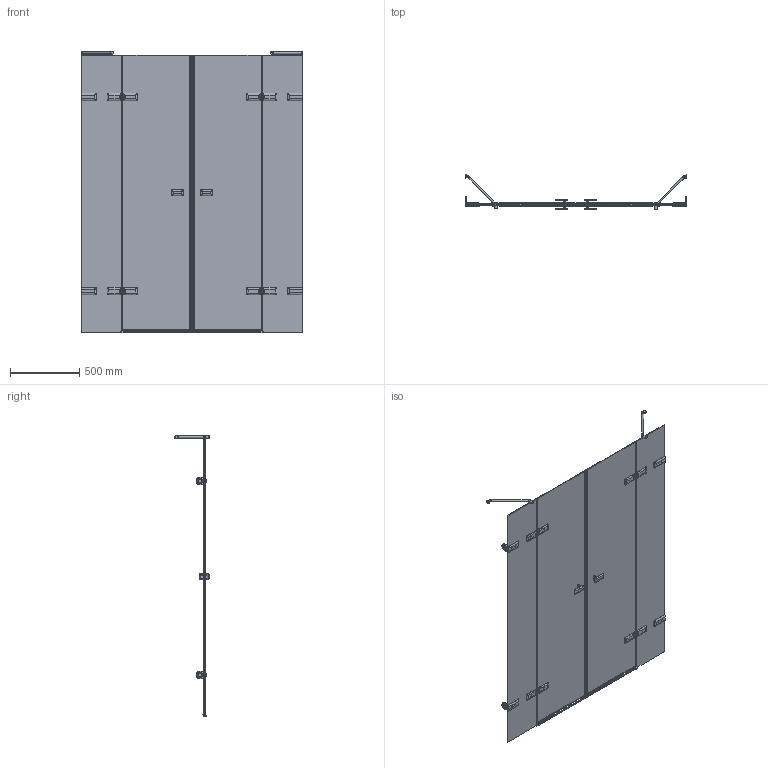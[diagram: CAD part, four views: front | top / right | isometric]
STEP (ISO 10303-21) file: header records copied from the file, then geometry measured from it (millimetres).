
FILE_DESCRIPTION(/* description */ (''),/* implementation_level */ '2;1');
FILE_NAME(/* name */ 'D:\!\! 1 Сначала\77\TREND DOOR GK-864\TREND DOOR GK-864-3D.stp',/* time_stamp */ '2021-01-20T18:19:22+03:00',/* author */ ('User'),/* organization */ (''),/* preprocessor_version */ 'ST-DEVELOPER v15.2',/* originating_system */ 'Autodesk Inventor 2014',/* authorisation */ '');
FILE_SCHEMA (('AUTOMOTIVE_DESIGN { 1 0 10303 214 3 1 1 }'));
Products named in the file (1): TREND DOOR GK-864-3D
Bounding box: 1600 x 251.64 x 2031.49 mm (x, y, z)
Volume: 20786408.9 mm3; surface area: 7171809.8 mm2
Topology: 13 solids, 47 shells, 2844 faces, 7309 edges, 4553 vertices
Faces by surface type: plane 1594, cylinder 759, bspline 304, cone 88, torus 72, sphere 27
Full cylindrical faces by diameter (mm): 4 x4, 4.134 x4, 4.917 x8, 5 x12, 5.2 x4, 6 x12, 7.2 x8, 8 x4, 9 x16, 11 x4, 13 x16, 15 x2, 16 x16, 20 x4, 26 x2, 28 x4, 28.5 x4, 40 x4
Entity records: 121492 total; most frequent: CARTESIAN_POINT 52087, ORIENTED_EDGE 13836, DIRECTION 13386, EDGE_CURVE 6914, AXIS2_PLACEMENT_3D 4687, VERTEX_POINT 4465, LINE 4012, VECTOR 4012
